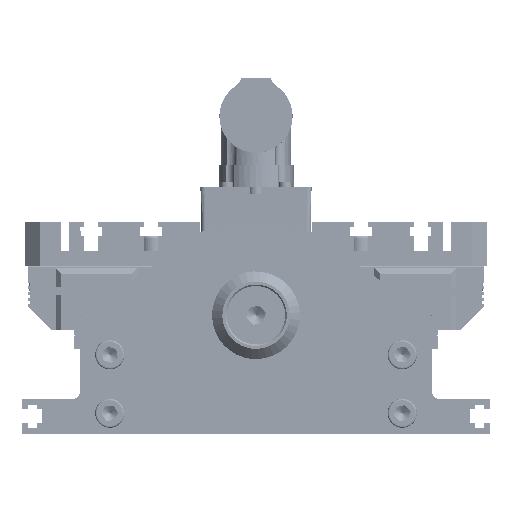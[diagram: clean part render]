
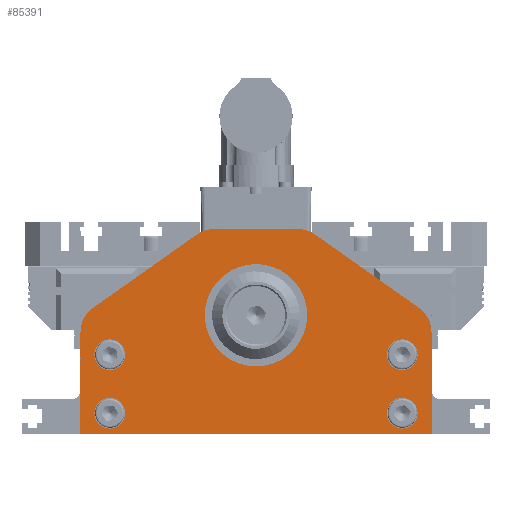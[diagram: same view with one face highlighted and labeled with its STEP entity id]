
A CAD part, front view. The second image highlights one B-rep face of the part: STEP entity #85391.
In plain terms, the highlighted planar face has unit normal (0, -1, 0).
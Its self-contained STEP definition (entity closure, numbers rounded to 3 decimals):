
#910=FACE_BOUND('',#26307,.T.);
#911=FACE_BOUND('',#26308,.T.);
#912=FACE_BOUND('',#26309,.T.);
#913=FACE_BOUND('',#26310,.T.);
#914=FACE_BOUND('',#26311,.T.);
#1643=PLANE('',#90095);
#4902=LINE('',#123532,#12874);
#4913=LINE('',#123623,#12885);
#4919=LINE('',#123635,#12891);
#4921=LINE('',#123643,#12893);
#4927=LINE('',#123658,#12899);
#4930=LINE('',#123669,#12902);
#12874=VECTOR('',#98744,10.);
#12885=VECTOR('',#98843,10.);
#12891=VECTOR('',#98851,10.);
#12893=VECTOR('',#98861,10.);
#12899=VECTOR('',#98875,10.);
#12902=VECTOR('',#98888,10.);
#21904=FACE_OUTER_BOUND('',#26306,.T.);
#26306=EDGE_LOOP('',(#56745,#56746,#56747,#56748,#56749,#56750,#56751,#56752,
#56753,#56754));
#26307=EDGE_LOOP('',(#56755,#56756));
#26308=EDGE_LOOP('',(#56757,#56758));
#26309=EDGE_LOOP('',(#56759,#56760));
#26310=EDGE_LOOP('',(#56761,#56762));
#26311=EDGE_LOOP('',(#56763,#56764));
#31318=CIRCLE('',#90044,17.5);
#31319=CIRCLE('',#90045,17.5);
#31323=CIRCLE('',#90051,5.25);
#31324=CIRCLE('',#90052,5.25);
#31329=CIRCLE('',#90059,5.25);
#31330=CIRCLE('',#90060,5.25);
#31335=CIRCLE('',#90067,5.25);
#31336=CIRCLE('',#90068,5.25);
#31341=CIRCLE('',#90075,5.25);
#31342=CIRCLE('',#90076,5.25);
#31348=CIRCLE('',#90086,10.);
#31349=CIRCLE('',#90089,10.);
#31352=CIRCLE('',#90094,10.);
#31353=CIRCLE('',#90096,10.);
#35301=VERTEX_POINT('',#123529);
#35302=VERTEX_POINT('',#123531);
#35306=VERTEX_POINT('',#123543);
#35307=VERTEX_POINT('',#123544);
#35311=VERTEX_POINT('',#123556);
#35312=VERTEX_POINT('',#123557);
#35317=VERTEX_POINT('',#123571);
#35318=VERTEX_POINT('',#123572);
#35323=VERTEX_POINT('',#123586);
#35324=VERTEX_POINT('',#123587);
#35329=VERTEX_POINT('',#123601);
#35330=VERTEX_POINT('',#123602);
#35336=VERTEX_POINT('',#123617);
#35338=VERTEX_POINT('',#123621);
#35340=VERTEX_POINT('',#123626);
#35344=VERTEX_POINT('',#123640);
#35347=VERTEX_POINT('',#123649);
#35349=VERTEX_POINT('',#123655);
#35352=VERTEX_POINT('',#123663);
#35353=VERTEX_POINT('',#123667);
#43899=EDGE_CURVE('',#35302,#35301,#4902,.T.);
#43905=EDGE_CURVE('',#35306,#35307,#31318,.T.);
#43906=EDGE_CURVE('',#35307,#35306,#31319,.T.);
#43911=EDGE_CURVE('',#35311,#35312,#31323,.T.);
#43912=EDGE_CURVE('',#35312,#35311,#31324,.T.);
#43918=EDGE_CURVE('',#35317,#35318,#31329,.T.);
#43919=EDGE_CURVE('',#35318,#35317,#31330,.T.);
#43925=EDGE_CURVE('',#35323,#35324,#31335,.T.);
#43926=EDGE_CURVE('',#35324,#35323,#31336,.T.);
#43932=EDGE_CURVE('',#35329,#35330,#31341,.T.);
#43933=EDGE_CURVE('',#35330,#35329,#31342,.T.);
#43942=EDGE_CURVE('',#35336,#35338,#4913,.T.);
#43948=EDGE_CURVE('',#35340,#35302,#4919,.T.);
#43950=EDGE_CURVE('',#35340,#35338,#31348,.T.);
#43952=EDGE_CURVE('',#35301,#35344,#4921,.T.);
#43956=EDGE_CURVE('',#35347,#35344,#31349,.T.);
#43960=EDGE_CURVE('',#35347,#35349,#4927,.T.);
#43964=EDGE_CURVE('',#35352,#35349,#31352,.T.);
#43965=EDGE_CURVE('',#35336,#35353,#31353,.T.);
#43966=EDGE_CURVE('',#35352,#35353,#4930,.T.);
#56745=ORIENTED_EDGE('',*,*,#43965,.F.);
#56746=ORIENTED_EDGE('',*,*,#43942,.T.);
#56747=ORIENTED_EDGE('',*,*,#43950,.F.);
#56748=ORIENTED_EDGE('',*,*,#43948,.T.);
#56749=ORIENTED_EDGE('',*,*,#43899,.T.);
#56750=ORIENTED_EDGE('',*,*,#43952,.T.);
#56751=ORIENTED_EDGE('',*,*,#43956,.F.);
#56752=ORIENTED_EDGE('',*,*,#43960,.T.);
#56753=ORIENTED_EDGE('',*,*,#43964,.F.);
#56754=ORIENTED_EDGE('',*,*,#43966,.T.);
#56755=ORIENTED_EDGE('',*,*,#43932,.T.);
#56756=ORIENTED_EDGE('',*,*,#43933,.T.);
#56757=ORIENTED_EDGE('',*,*,#43925,.T.);
#56758=ORIENTED_EDGE('',*,*,#43926,.T.);
#56759=ORIENTED_EDGE('',*,*,#43918,.T.);
#56760=ORIENTED_EDGE('',*,*,#43919,.T.);
#56761=ORIENTED_EDGE('',*,*,#43911,.T.);
#56762=ORIENTED_EDGE('',*,*,#43912,.T.);
#56763=ORIENTED_EDGE('',*,*,#43905,.T.);
#56764=ORIENTED_EDGE('',*,*,#43906,.T.);
#85391=ADVANCED_FACE('',(#21904,#910,#911,#912,#913,#914),#1643,.F.);
#90044=AXIS2_PLACEMENT_3D('',#123545,#98757,#98758);
#90045=AXIS2_PLACEMENT_3D('',#123546,#98759,#98760);
#90051=AXIS2_PLACEMENT_3D('',#123558,#98772,#98773);
#90052=AXIS2_PLACEMENT_3D('',#123559,#98774,#98775);
#90059=AXIS2_PLACEMENT_3D('',#123573,#98789,#98790);
#90060=AXIS2_PLACEMENT_3D('',#123574,#98791,#98792);
#90067=AXIS2_PLACEMENT_3D('',#123588,#98806,#98807);
#90068=AXIS2_PLACEMENT_3D('',#123589,#98808,#98809);
#90075=AXIS2_PLACEMENT_3D('',#123603,#98823,#98824);
#90076=AXIS2_PLACEMENT_3D('',#123604,#98825,#98826);
#90086=AXIS2_PLACEMENT_3D('',#123638,#98856,#98857);
#90089=AXIS2_PLACEMENT_3D('',#123650,#98867,#98868);
#90094=AXIS2_PLACEMENT_3D('',#123665,#98882,#98883);
#90095=AXIS2_PLACEMENT_3D('',#123666,#98884,#98885);
#90096=AXIS2_PLACEMENT_3D('',#123668,#98886,#98887);
#98744=DIRECTION('',(1.,0.,0.));
#98757=DIRECTION('center_axis',(0.,1.,0.));
#98758=DIRECTION('ref_axis',(-1.,0.,0.));
#98759=DIRECTION('center_axis',(0.,1.,0.));
#98760=DIRECTION('ref_axis',(-1.,0.,0.));
#98772=DIRECTION('center_axis',(0.,1.,0.));
#98773=DIRECTION('ref_axis',(-1.,0.,0.));
#98774=DIRECTION('center_axis',(0.,1.,0.));
#98775=DIRECTION('ref_axis',(-1.,0.,0.));
#98789=DIRECTION('center_axis',(0.,1.,0.));
#98790=DIRECTION('ref_axis',(-1.,0.,0.));
#98791=DIRECTION('center_axis',(0.,1.,0.));
#98792=DIRECTION('ref_axis',(-1.,0.,0.));
#98806=DIRECTION('center_axis',(0.,1.,0.));
#98807=DIRECTION('ref_axis',(-1.,0.,0.));
#98808=DIRECTION('center_axis',(0.,1.,0.));
#98809=DIRECTION('ref_axis',(-1.,0.,0.));
#98823=DIRECTION('center_axis',(0.,1.,0.));
#98824=DIRECTION('ref_axis',(-1.,0.,0.));
#98825=DIRECTION('center_axis',(0.,1.,0.));
#98826=DIRECTION('ref_axis',(-1.,0.,0.));
#98843=DIRECTION('',(-0.817,0.,-0.577));
#98851=DIRECTION('',(0.,0.,-1.));
#98856=DIRECTION('center_axis',(0.,1.,0.));
#98857=DIRECTION('ref_axis',(-0.888,0.,0.46));
#98861=DIRECTION('',(0.,0.,1.));
#98867=DIRECTION('center_axis',(0.,1.,0.));
#98868=DIRECTION('ref_axis',(0.888,0.,0.46));
#98875=DIRECTION('',(-0.817,0.,0.577));
#98882=DIRECTION('center_axis',(0.,1.,0.));
#98883=DIRECTION('ref_axis',(0.303,0.,0.953));
#98884=DIRECTION('center_axis',(0.,1.,0.));
#98885=DIRECTION('ref_axis',(1.,0.,0.));
#98886=DIRECTION('center_axis',(0.,1.,0.));
#98887=DIRECTION('ref_axis',(-0.303,0.,0.953));
#98888=DIRECTION('',(-1.,0.,0.));
#123529=CARTESIAN_POINT('',(60.,-225.,-17.25));
#123531=CARTESIAN_POINT('',(-60.,-225.,-17.25));
#123532=CARTESIAN_POINT('',(-60.,-225.,-17.25));
#123543=CARTESIAN_POINT('',(-17.5,-225.,23.25));
#123544=CARTESIAN_POINT('',(17.5,-225.,23.25));
#123545=CARTESIAN_POINT('Origin',(0.,-225.,23.25));
#123546=CARTESIAN_POINT('Origin',(0.,-225.,23.25));
#123556=CARTESIAN_POINT('',(44.75,-225.,-10.25));
#123557=CARTESIAN_POINT('',(55.25,-225.,-10.25));
#123558=CARTESIAN_POINT('Origin',(50.,-225.,-10.25));
#123559=CARTESIAN_POINT('Origin',(50.,-225.,-10.25));
#123571=CARTESIAN_POINT('',(-55.25,-225.,9.75));
#123572=CARTESIAN_POINT('',(-44.75,-225.,9.75));
#123573=CARTESIAN_POINT('Origin',(-50.,-225.,9.75));
#123574=CARTESIAN_POINT('Origin',(-50.,-225.,9.75));
#123586=CARTESIAN_POINT('',(-55.25,-225.,-10.25));
#123587=CARTESIAN_POINT('',(-44.75,-225.,-10.25));
#123588=CARTESIAN_POINT('Origin',(-50.,-225.,-10.25));
#123589=CARTESIAN_POINT('Origin',(-50.,-225.,-10.25));
#123601=CARTESIAN_POINT('',(44.75,-225.,9.75));
#123602=CARTESIAN_POINT('',(55.25,-225.,9.75));
#123603=CARTESIAN_POINT('Origin',(50.,-225.,9.75));
#123604=CARTESIAN_POINT('Origin',(50.,-225.,9.75));
#123617=CARTESIAN_POINT('',(-20.093,-225.,50.92));
#123621=CARTESIAN_POINT('',(-55.767,-225.,25.738));
#123623=CARTESIAN_POINT('',(-41.155,-225.,36.053));
#123626=CARTESIAN_POINT('',(-60.,-225.,17.568));
#123635=CARTESIAN_POINT('',(-60.,-225.,52.75));
#123638=CARTESIAN_POINT('Origin',(-50.,-225.,17.568));
#123640=CARTESIAN_POINT('',(60.,-225.,17.568));
#123643=CARTESIAN_POINT('',(60.,-225.,-17.25));
#123649=CARTESIAN_POINT('',(55.767,-225.,25.738));
#123650=CARTESIAN_POINT('Origin',(50.,-225.,17.568));
#123655=CARTESIAN_POINT('',(20.093,-225.,50.92));
#123658=CARTESIAN_POINT('',(19.905,-225.,51.053));
#123663=CARTESIAN_POINT('',(14.326,-225.,52.75));
#123665=CARTESIAN_POINT('Origin',(14.326,-225.,42.75));
#123666=CARTESIAN_POINT('Origin',(0.,-225.,17.75));
#123667=CARTESIAN_POINT('',(-14.326,-225.,52.75));
#123668=CARTESIAN_POINT('Origin',(-14.326,-225.,42.75));
#123669=CARTESIAN_POINT('',(60.,-225.,52.75));
